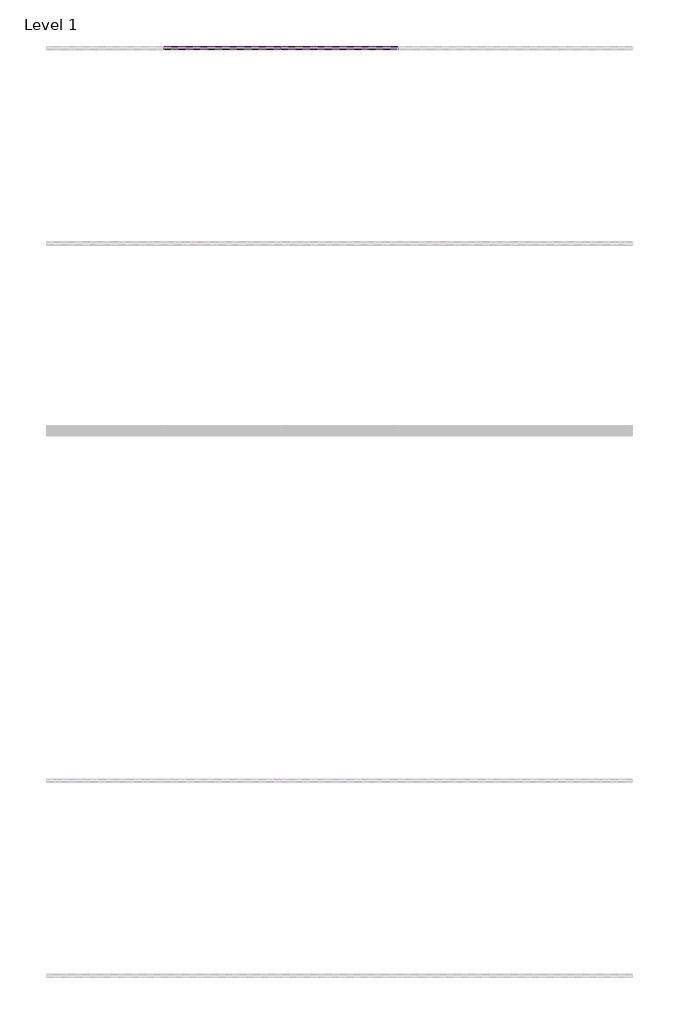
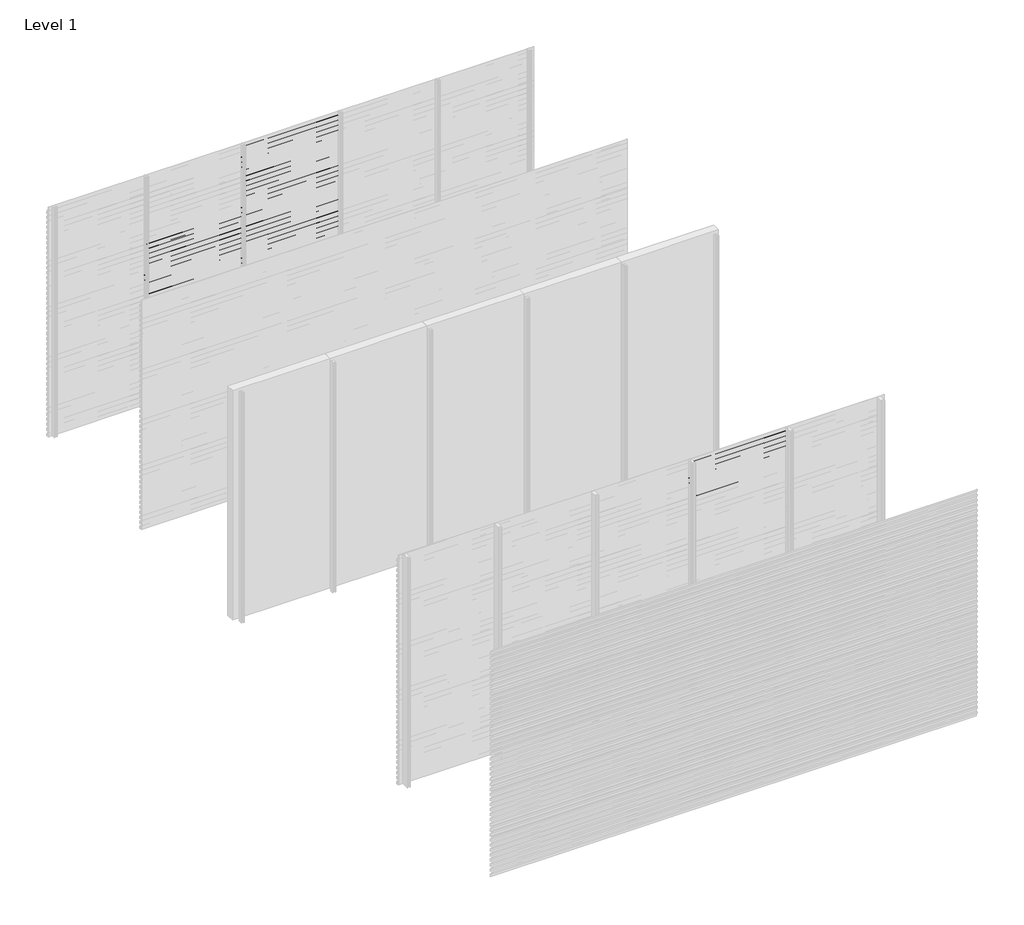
# One storey, part 109 of 540: 85 proxies.
"""IFC4 building model written with IfcOpenShell, lengths in millimetres."""

import ifcopenshell
import ifcopenshell.guid

model = None  # the IFC model being written
_history = None  # IfcOwnerHistory: only IFC2X3 demands one
_inside = {}  # id of a spatial element -> (the spatial element, [elements in it])
_under = {}  # id of a project, library or spatial element -> (it, [spatial elements below it])
_declared = {}  # id of a project -> (the project, [libraries it declares])
_typed = {}  # id of a type object -> (the type object, [elements of that type])
_made_of = {}  # id of a material, layer set ... -> (it, [elements and type objects made of it])


def new_model(schema):
    """Start an empty IFC model of exactly this schema.

    Asked for "IFC4X3", IfcOpenShell would pick the latest addendum, in which some entities
    have other attributes; the version numbers below select the first issue.
    IFC2X3 requires an IfcOwnerHistory on every rooted entity: one is made here for all.
    """
    global model, _history
    if schema == "IFC4X3":
        model = ifcopenshell.file(schema_version=(4, 3, 0, 0))
    else:
        model = ifcopenshell.file(schema=schema)
    _inside.clear()
    _under.clear()
    _declared.clear()
    _typed.clear()
    _made_of.clear()
    _history = None
    if model.schema == "IFC2X3":
        org = make("IfcOrganization", Name="unknown")
        user = make(
            "IfcPersonAndOrganization",
            ThePerson=make("IfcPerson", FamilyName="unknown"),
            TheOrganization=org,
        )
        app = make(
            "IfcApplication",
            ApplicationDeveloper=org,
            Version="unknown",
            ApplicationFullName="unknown",
            ApplicationIdentifier="unknown",
        )
        _history = make(
            "IfcOwnerHistory",
            OwningUser=user,
            OwningApplication=app,
            ChangeAction="ADDED",
            CreationDate=0,
        )
    return model


def make(cls, **values):
    """One entity of the class cls with the attributes given. An attribute that is None is left unset."""
    return model.create_entity(
        cls, **{name: value for name, value in values.items() if value is not None}
    )


def rooted(cls, **values):
    """An entity with a GlobalId (a new one), such as an element, a storey or a relation."""
    return make(cls, GlobalId=ifcopenshell.guid.new(), OwnerHistory=_history, **values)


def si_unit(unit_type, name, prefix=None):
    """IfcSIUnit, for example si_unit("LENGTHUNIT", "METRE", prefix="MILLI")."""
    return make("IfcSIUnit", UnitType=unit_type, Prefix=prefix, Name=name)


def assignment(units):
    """IfcUnitAssignment: the units of a project."""
    return None if units is None else make("IfcUnitAssignment", Units=units)


def point(xyz):
    """IfcCartesianPoint."""
    return None if xyz is None else make("IfcCartesianPoint", Coordinates=xyz)


def direction(xyz):
    """IfcDirection."""
    return None if xyz is None else make("IfcDirection", DirectionRatios=xyz)


def frame(location, z_axis=None, x_axis=None):
    """IfcAxis2Placement3D, a coordinate frame: its origin and axes. An axis left out is left unset."""
    return make(
        "IfcAxis2Placement3D",
        Location=point(location),
        Axis=direction(z_axis),
        RefDirection=direction(x_axis),
    )


def origin():
    """The frame at (0, 0, 0) with its axes left unset."""
    return frame((0.0, 0.0, 0.0))


def place(relative_to, where):
    """IfcLocalPlacement: puts the frame where relative to a parent placement (None: the world)."""
    return make(
        "IfcLocalPlacement", PlacementRelTo=relative_to, RelativePlacement=where
    )


def context(
    kind, dimensions, precision=None, world=None, true_north=None, identifier=None
):
    """IfcGeometricRepresentationContext, for example the 3D "Model" context."""
    return make(
        "IfcGeometricRepresentationContext",
        ContextIdentifier=identifier,
        ContextType=kind,
        CoordinateSpaceDimension=dimensions,
        Precision=precision,
        WorldCoordinateSystem=world,
        TrueNorth=true_north,
    )


def project(units=None, contexts=None):
    """IfcProject with its units and contexts."""
    return rooted(
        "IfcProject",
        Name="project",
        RepresentationContexts=contexts,
        UnitsInContext=assignment(units),
    )


def spatial(cls, under=None, at=None, **own):
    """A site, building, storey or space (cls), placed at a placement, below another one or the project."""
    s = rooted(cls, ObjectPlacement=at, **own)
    if under is not None:
        _under.setdefault(under.id(), (under, []))[1].append(s)
    return s


def polyline(points):
    """IfcPolyline through the points."""
    return make("IfcPolyline", Points=[point(p) for p in points])


def outline(outer, holes=None, kind="AREA"):
    """IfcArbitraryClosedProfileDef: a profile drawn as a closed curve; with holes, ...WithVoids."""
    if holes is None:
        return make("IfcArbitraryClosedProfileDef", ProfileType=kind, OuterCurve=outer)
    return make(
        "IfcArbitraryProfileDefWithVoids",
        ProfileType=kind,
        OuterCurve=outer,
        InnerCurves=holes,
    )


def extrude(swept, where, along, depth):
    """IfcExtrudedAreaSolid: the profile swept, set in the frame where, extruded along a direction by depth."""
    return make(
        "IfcExtrudedAreaSolid",
        SweptArea=swept,
        Position=where,
        ExtrudedDirection=direction(along),
        Depth=depth,
    )


def shape(context_of_items, identifier, shape_type, items):
    """IfcShapeRepresentation: the items that make up one representation, for example the "Body"."""
    return make(
        "IfcShapeRepresentation",
        ContextOfItems=context_of_items,
        RepresentationIdentifier=identifier,
        RepresentationType=shape_type,
        Items=items,
    )


def made_of(thing, what):
    """Note that an element or type object is made of a material, layer set ...; save() writes the relation."""
    if what is not None:
        _made_of.setdefault(what.id(), (what, []))[1].append(thing)
    return thing


def element(
    cls,
    number,
    at=None,
    inside=None,
    cuts=None,
    type_object=None,
    material=None,
    context=None,
    identifier="Body",
    shape_type=None,
    held_by="IfcProductDefinitionShape",
    body=None,
    shapes=None,
    **own,
):
    """One element of the class cls, such as IfcWall. Its Tag is "e" and its number.

    at: its placement. inside: the storey or other place that contains it. cuts: it is an
    opening in that element (IfcRelVoidsElement). A single representation is given by context,
    identifier, shape_type and body (its items); several are given by shapes. held_by: the class
    of the entity that holds the representations. save() writes the other relations.
    """
    e = rooted(cls, Tag="e%d" % number, ObjectPlacement=at, **own)
    if body is not None:
        shapes = [shape(context, identifier, shape_type, body)]
    if shapes is not None:
        e.Representation = make(held_by, Representations=shapes)
    if inside is not None:
        _inside.setdefault(inside.id(), (inside, []))[1].append(e)
    if cuts is not None:
        rooted(
            "IfcRelVoidsElement", RelatingBuildingElement=cuts, RelatedOpeningElement=e
        )
    if type_object is not None:
        _typed.setdefault(type_object.id(), (type_object, []))[1].append(e)
    return made_of(e, material)


def aggregate(whole, parts):
    """IfcRelAggregates: a whole, such as a stair, and the parts it consists of."""
    return rooted("IfcRelAggregates", RelatingObject=whole, RelatedObjects=parts)


def save(model, path):
    """Write the relations noted so far, then the file.

    IfcRelAggregates (storeys below a building ...), IfcRelContainedInSpatialStructure (elements
    in a storey), IfcRelDefinesByType, IfcRelAssociatesMaterial and IfcRelDeclares: one each for
    every whole, place, type object, material and project.
    """
    for whole, parts in _under.values():
        aggregate(whole, parts)
    for where, things in _inside.values():
        rooted(
            "IfcRelContainedInSpatialStructure",
            RelatedElements=things,
            RelatingStructure=where,
        )
    for kind, things in _typed.values():
        rooted("IfcRelDefinesByType", RelatedObjects=things, RelatingType=kind)
    for what, things in _made_of.values():
        rooted("IfcRelAssociatesMaterial", RelatedObjects=things, RelatingMaterial=what)
    for by, libraries in _declared.values():
        rooted("IfcRelDeclares", RelatingContext=by, RelatedDefinitions=libraries)
    model.write(path)


model = new_model("IFC4")

# Units and contexts
model_context = context("Model", 3, world=origin())
ifc_project = project(units=[si_unit("LENGTHUNIT", "METRE", prefix="MILLI")], contexts=[model_context])

# Site, building, storey
site = spatial("IfcSite", under=ifc_project)
building = spatial("IfcBuilding", under=site)
storey = spatial("IfcBuildingStorey", under=building, Name="Level 1", Elevation=0.0)

# Proxies
placement = place(None, origin())
element("IfcBuildingElementProxy", 1, Name="Wall Sweeps", at=placement, inside=storey, context=model_context, shape_type="SweptSolid", body=[
    extrude(outline(polyline([(59014.0540136, 2072.0), (59014.0540136, 2039.0), (59012.8040136, 2039.7216933), (59012.8040136, 2071.2872415), (58983.0540136, 2092.0588647), (58983.0540136, 2112.0), (58984.3040136, 2112.0), (58984.3040136, 2092.7716232), (59014.0540136, 2072.0)])), frame((46166.6208097, 0.0, 0.0), z_axis=(1.0, 0.0, 0.0), x_axis=(0.0, 1.0, 0.0)), (0.0, 0.0, 1.0), 1200.0),
])
element("IfcBuildingElementProxy", 2, Name="Wall Sweeps", at=placement, inside=storey, context=model_context, shape_type="SweptSolid", body=[
    extrude(outline(polyline([(59014.0540136, 2006.0), (59014.0540136, 1973.0), (59012.8040136, 1973.7216933), (59012.8040136, 2005.2872415), (58983.0540136, 2026.0588647), (58983.0540136, 2046.0), (58984.3040136, 2046.0), (58984.3040136, 2026.7716232), (59014.0540136, 2006.0)])), frame((46166.6208097, 0.0, 0.0), z_axis=(1.0, 0.0, 0.0), x_axis=(0.0, 1.0, 0.0)), (0.0, 0.0, 1.0), 1200.0),
])
element("IfcBuildingElementProxy", 3, Name="Wall Sweeps", at=placement, inside=storey, context=model_context, shape_type="SweptSolid", body=[
    extrude(outline(polyline([(59014.0540136, 1940.0), (59014.0540136, 1907.0), (59012.8040136, 1907.7216933), (59012.8040136, 1939.2872415), (58983.0540136, 1960.0588647), (58983.0540136, 1980.0), (58984.3040136, 1980.0), (58984.3040136, 1960.7716232), (59014.0540136, 1940.0)])), frame((46166.6208097, 0.0, 0.0), z_axis=(1.0, 0.0, 0.0), x_axis=(0.0, 1.0, 0.0)), (0.0, 0.0, 1.0), 1200.0),
])
element("IfcBuildingElementProxy", 4, Name="Wall Sweeps", at=placement, inside=storey, context=model_context, shape_type="SweptSolid", body=[
    extrude(outline(polyline([(59014.0540136, 1874.0), (59014.0540136, 1841.0), (59012.8040136, 1841.7216933), (59012.8040136, 1873.2872415), (58983.0540136, 1894.0588647), (58983.0540136, 1914.0), (58984.3040136, 1914.0), (58984.3040136, 1894.7716232), (59014.0540136, 1874.0)])), frame((46166.6208097, 0.0, 0.0), z_axis=(1.0, 0.0, 0.0), x_axis=(0.0, 1.0, 0.0)), (0.0, 0.0, 1.0), 1200.0),
])
element("IfcBuildingElementProxy", 5, Name="Wall Sweeps", at=placement, inside=storey, context=model_context, shape_type="SweptSolid", body=[
    extrude(outline(polyline([(59014.0540136, 1808.0), (59014.0540136, 1775.0), (59012.8040136, 1775.7216933), (59012.8040136, 1807.2872415), (58983.0540136, 1828.0588647), (58983.0540136, 1848.0), (58984.3040136, 1848.0), (58984.3040136, 1828.7716232), (59014.0540136, 1808.0)])), frame((46166.6208097, 0.0, 0.0), z_axis=(1.0, 0.0, 0.0), x_axis=(0.0, 1.0, 0.0)), (0.0, 0.0, 1.0), 1200.0),
])
element("IfcBuildingElementProxy", 6, Name="Wall Sweeps", at=placement, inside=storey, context=model_context, shape_type="SweptSolid", body=[
    extrude(outline(polyline([(59014.0540136, 1742.0), (59014.0540136, 1709.0), (59012.8040136, 1709.7216933), (59012.8040136, 1741.2872415), (58983.0540136, 1762.0588647), (58983.0540136, 1782.0), (58984.3040136, 1782.0), (58984.3040136, 1762.7716232), (59014.0540136, 1742.0)])), frame((46166.6208097, 0.0, 0.0), z_axis=(1.0, 0.0, 0.0), x_axis=(0.0, 1.0, 0.0)), (0.0, 0.0, 1.0), 1200.0),
])
element("IfcBuildingElementProxy", 7, Name="Wall Sweeps", at=placement, inside=storey, context=model_context, shape_type="SweptSolid", body=[
    extrude(outline(polyline([(59014.0540136, 1676.0), (59014.0540136, 1643.0), (59012.8040136, 1643.7216933), (59012.8040136, 1675.2872415), (58983.0540136, 1696.0588647), (58983.0540136, 1716.0), (58984.3040136, 1716.0), (58984.3040136, 1696.7716232), (59014.0540136, 1676.0)])), frame((46166.6208097, 0.0, 0.0), z_axis=(1.0, 0.0, 0.0), x_axis=(0.0, 1.0, 0.0)), (0.0, 0.0, 1.0), 1200.0),
])
element("IfcBuildingElementProxy", 8, Name="Wall Sweeps", at=placement, inside=storey, context=model_context, shape_type="SweptSolid", body=[
    extrude(outline(polyline([(59014.0540136, 1610.0), (59014.0540136, 1577.0), (59012.8040136, 1577.7216933), (59012.8040136, 1609.2872415), (58983.0540136, 1630.0588647), (58983.0540136, 1650.0), (58984.3040136, 1650.0), (58984.3040136, 1630.7716232), (59014.0540136, 1610.0)])), frame((46166.6208097, 0.0, 0.0), z_axis=(1.0, 0.0, 0.0), x_axis=(0.0, 1.0, 0.0)), (0.0, 0.0, 1.0), 1200.0),
])
element("IfcBuildingElementProxy", 9, Name="Wall Sweeps", at=placement, inside=storey, context=model_context, shape_type="SweptSolid", body=[
    extrude(outline(polyline([(59014.0540136, 1544.0), (59014.0540136, 1511.0), (59012.8040136, 1511.7216933), (59012.8040136, 1543.2872415), (58983.0540136, 1564.0588647), (58983.0540136, 1584.0), (58984.3040136, 1584.0), (58984.3040136, 1564.7716232), (59014.0540136, 1544.0)])), frame((46166.6208097, 0.0, 0.0), z_axis=(1.0, 0.0, 0.0), x_axis=(0.0, 1.0, 0.0)), (0.0, 0.0, 1.0), 1200.0),
])
element("IfcBuildingElementProxy", 10, Name="Wall Sweeps", at=placement, inside=storey, context=model_context, shape_type="SweptSolid", body=[
    extrude(outline(polyline([(59014.0540136, 1478.0), (59014.0540136, 1445.0), (59012.8040136, 1445.7216933), (59012.8040136, 1477.2872415), (58983.0540136, 1498.0588647), (58983.0540136, 1518.0), (58984.3040136, 1518.0), (58984.3040136, 1498.7716232), (59014.0540136, 1478.0)])), frame((46166.6208097, 0.0, 0.0), z_axis=(1.0, 0.0, 0.0), x_axis=(0.0, 1.0, 0.0)), (0.0, 0.0, 1.0), 1200.0),
])
element("IfcBuildingElementProxy", 11, Name="Wall Sweeps", at=placement, inside=storey, context=model_context, shape_type="SweptSolid", body=[
    extrude(outline(polyline([(59014.0540136, 1412.0), (59014.0540136, 1379.0), (59012.8040136, 1379.7216933), (59012.8040136, 1411.2872415), (58983.0540136, 1432.0588647), (58983.0540136, 1452.0), (58984.3040136, 1452.0), (58984.3040136, 1432.7716232), (59014.0540136, 1412.0)])), frame((46166.6208097, 0.0, 0.0), z_axis=(1.0, 0.0, 0.0), x_axis=(0.0, 1.0, 0.0)), (0.0, 0.0, 1.0), 1200.0),
])
element("IfcBuildingElementProxy", 12, Name="Wall Sweeps", at=placement, inside=storey, context=model_context, shape_type="SweptSolid", body=[
    extrude(outline(polyline([(59014.0540136, 1346.0), (59014.0540136, 1313.0), (59012.8040136, 1313.7216933), (59012.8040136, 1345.2872415), (58983.0540136, 1366.0588647), (58983.0540136, 1386.0), (58984.3040136, 1386.0), (58984.3040136, 1366.7716232), (59014.0540136, 1346.0)])), frame((46166.6208097, 0.0, 0.0), z_axis=(1.0, 0.0, 0.0), x_axis=(0.0, 1.0, 0.0)), (0.0, 0.0, 1.0), 1200.0),
])
element("IfcBuildingElementProxy", 13, Name="Wall Sweeps", at=placement, inside=storey, context=model_context, shape_type="SweptSolid", body=[
    extrude(outline(polyline([(59014.0540136, 1280.0), (59014.0540136, 1247.0), (59012.8040136, 1247.7216933), (59012.8040136, 1279.2872415), (58983.0540136, 1300.0588647), (58983.0540136, 1320.0), (58984.3040136, 1320.0), (58984.3040136, 1300.7716232), (59014.0540136, 1280.0)])), frame((46166.6208097, 0.0, 0.0), z_axis=(1.0, 0.0, 0.0), x_axis=(0.0, 1.0, 0.0)), (0.0, 0.0, 1.0), 1200.0),
])
element("IfcBuildingElementProxy", 14, Name="Wall Sweeps", at=placement, inside=storey, context=model_context, shape_type="SweptSolid", body=[
    extrude(outline(polyline([(59014.0540136, 1214.0), (59014.0540136, 1181.0), (59012.8040136, 1181.7216933), (59012.8040136, 1213.2872415), (58983.0540136, 1234.0588647), (58983.0540136, 1254.0), (58984.3040136, 1254.0), (58984.3040136, 1234.7716232), (59014.0540136, 1214.0)])), frame((46166.6208097, 0.0, 0.0), z_axis=(1.0, 0.0, 0.0), x_axis=(0.0, 1.0, 0.0)), (0.0, 0.0, 1.0), 1200.0),
])
element("IfcBuildingElementProxy", 15, Name="Wall Sweeps", at=placement, inside=storey, context=model_context, shape_type="SweptSolid", body=[
    extrude(outline(polyline([(59014.0540136, 1148.0), (59014.0540136, 1115.0), (59012.8040136, 1115.7216933), (59012.8040136, 1147.2872415), (58983.0540136, 1168.0588647), (58983.0540136, 1188.0), (58984.3040136, 1188.0), (58984.3040136, 1168.7716232), (59014.0540136, 1148.0)])), frame((46166.6208097, 0.0, 0.0), z_axis=(1.0, 0.0, 0.0), x_axis=(0.0, 1.0, 0.0)), (0.0, 0.0, 1.0), 1200.0),
])
element("IfcBuildingElementProxy", 16, Name="Wall Sweeps", at=placement, inside=storey, context=model_context, shape_type="SweptSolid", body=[
    extrude(outline(polyline([(59014.0540136, 1082.0), (59014.0540136, 1049.0), (59012.8040136, 1049.7216933), (59012.8040136, 1081.2872415), (58983.0540136, 1102.0588647), (58983.0540136, 1122.0), (58984.3040136, 1122.0), (58984.3040136, 1102.7716232), (59014.0540136, 1082.0)])), frame((46166.6208097, 0.0, 0.0), z_axis=(1.0, 0.0, 0.0), x_axis=(0.0, 1.0, 0.0)), (0.0, 0.0, 1.0), 1200.0),
])
element("IfcBuildingElementProxy", 17, Name="Wall Sweeps", at=placement, inside=storey, context=model_context, shape_type="SweptSolid", body=[
    extrude(outline(polyline([(59014.0540136, 1016.0), (59014.0540136, 983.0), (59012.8040136, 983.7216933), (59012.8040136, 1015.2872415), (58983.0540136, 1036.0588647), (58983.0540136, 1056.0), (58984.3040136, 1056.0), (58984.3040136, 1036.7716232), (59014.0540136, 1016.0)])), frame((46166.6208097, 0.0, 0.0), z_axis=(1.0, 0.0, 0.0), x_axis=(0.0, 1.0, 0.0)), (0.0, 0.0, 1.0), 1200.0),
])
element("IfcBuildingElementProxy", 18, Name="Wall Sweeps", at=placement, inside=storey, context=model_context, shape_type="SweptSolid", body=[
    extrude(outline(polyline([(59014.0540136, 950.0), (59014.0540136, 917.0), (59012.8040136, 917.7216933), (59012.8040136, 949.2872415), (58983.0540136, 970.0588647), (58983.0540136, 990.0), (58984.3040136, 990.0), (58984.3040136, 970.7716232), (59014.0540136, 950.0)])), frame((46166.6208097, 0.0, 0.0), z_axis=(1.0, 0.0, 0.0), x_axis=(0.0, 1.0, 0.0)), (0.0, 0.0, 1.0), 1200.0),
])
element("IfcBuildingElementProxy", 19, Name="Wall Sweeps", at=placement, inside=storey, context=model_context, shape_type="SweptSolid", body=[
    extrude(outline(polyline([(59014.0540136, 884.0), (59014.0540136, 851.0), (59012.8040136, 851.7216933), (59012.8040136, 883.2872415), (58983.0540136, 904.0588647), (58983.0540136, 924.0), (58984.3040136, 924.0), (58984.3040136, 904.7716232), (59014.0540136, 884.0)])), frame((46166.6208097, 0.0, 0.0), z_axis=(1.0, 0.0, 0.0), x_axis=(0.0, 1.0, 0.0)), (0.0, 0.0, 1.0), 1200.0),
])
element("IfcBuildingElementProxy", 20, Name="Wall Sweeps", at=placement, inside=storey, context=model_context, shape_type="SweptSolid", body=[
    extrude(outline(polyline([(59014.0540136, 818.0), (59014.0540136, 785.0), (59012.8040136, 785.7216933), (59012.8040136, 817.2872415), (58983.0540136, 838.0588647), (58983.0540136, 858.0), (58984.3040136, 858.0), (58984.3040136, 838.7716232), (59014.0540136, 818.0)])), frame((46166.6208097, 0.0, 0.0), z_axis=(1.0, 0.0, 0.0), x_axis=(0.0, 1.0, 0.0)), (0.0, 0.0, 1.0), 1200.0),
])
element("IfcBuildingElementProxy", 21, Name="Wall Sweeps", at=placement, inside=storey, context=model_context, shape_type="SweptSolid", body=[
    extrude(outline(polyline([(59014.0540136, 752.0), (59014.0540136, 719.0), (59012.8040136, 719.7216933), (59012.8040136, 751.2872415), (58983.0540136, 772.0588647), (58983.0540136, 792.0), (58984.3040136, 792.0), (58984.3040136, 772.7716232), (59014.0540136, 752.0)])), frame((46166.6208097, 0.0, 0.0), z_axis=(1.0, 0.0, 0.0), x_axis=(0.0, 1.0, 0.0)), (0.0, 0.0, 1.0), 1200.0),
])
element("IfcBuildingElementProxy", 22, Name="Wall Sweeps", at=placement, inside=storey, context=model_context, shape_type="SweptSolid", body=[
    extrude(outline(polyline([(59014.0540136, 686.0), (59014.0540136, 653.0), (59012.8040136, 653.7216933), (59012.8040136, 685.2872415), (58983.0540136, 706.0588647), (58983.0540136, 726.0), (58984.3040136, 726.0), (58984.3040136, 706.7716232), (59014.0540136, 686.0)])), frame((46166.6208097, 0.0, 0.0), z_axis=(1.0, 0.0, 0.0), x_axis=(0.0, 1.0, 0.0)), (0.0, 0.0, 1.0), 1200.0),
])
element("IfcBuildingElementProxy", 23, Name="Wall Sweeps", at=placement, inside=storey, context=model_context, shape_type="SweptSolid", body=[
    extrude(outline(polyline([(59014.0540136, 620.0), (59014.0540136, 587.0), (59012.8040136, 587.7216933), (59012.8040136, 619.2872415), (58983.0540136, 640.0588647), (58983.0540136, 660.0), (58984.3040136, 660.0), (58984.3040136, 640.7716232), (59014.0540136, 620.0)])), frame((46166.6208097, 0.0, 0.0), z_axis=(1.0, 0.0, 0.0), x_axis=(0.0, 1.0, 0.0)), (0.0, 0.0, 1.0), 1200.0),
])
element("IfcBuildingElementProxy", 24, Name="Wall Sweeps", at=placement, inside=storey, context=model_context, shape_type="SweptSolid", body=[
    extrude(outline(polyline([(59014.0540136, 554.0), (59014.0540136, 521.0), (59012.8040136, 521.7216933), (59012.8040136, 553.2872415), (58983.0540136, 574.0588647), (58983.0540136, 594.0), (58984.3040136, 594.0), (58984.3040136, 574.7716232), (59014.0540136, 554.0)])), frame((46166.6208097, 0.0, 0.0), z_axis=(1.0, 0.0, 0.0), x_axis=(0.0, 1.0, 0.0)), (0.0, 0.0, 1.0), 1200.0),
])
element("IfcBuildingElementProxy", 25, Name="Wall Sweeps", at=placement, inside=storey, context=model_context, shape_type="SweptSolid", body=[
    extrude(outline(polyline([(59014.0540136, 488.0), (59014.0540136, 455.0), (59012.8040136, 455.7216933), (59012.8040136, 487.2872415), (58983.0540136, 508.0588647), (58983.0540136, 528.0), (58984.3040136, 528.0), (58984.3040136, 508.7716232), (59014.0540136, 488.0)])), frame((46166.6208097, 0.0, 0.0), z_axis=(1.0, 0.0, 0.0), x_axis=(0.0, 1.0, 0.0)), (0.0, 0.0, 1.0), 1200.0),
])
element("IfcBuildingElementProxy", 26, Name="Wall Sweeps", at=placement, inside=storey, context=model_context, shape_type="SweptSolid", body=[
    extrude(outline(polyline([(59014.0540136, 422.0), (59014.0540136, 389.0), (59012.8040136, 389.7216933), (59012.8040136, 421.2872415), (58983.0540136, 442.0588647), (58983.0540136, 462.0), (58984.3040136, 462.0), (58984.3040136, 442.7716232), (59014.0540136, 422.0)])), frame((46166.6208097, 0.0, 0.0), z_axis=(1.0, 0.0, 0.0), x_axis=(0.0, 1.0, 0.0)), (0.0, 0.0, 1.0), 1200.0),
])
element("IfcBuildingElementProxy", 27, Name="Wall Sweeps", at=placement, inside=storey, context=model_context, shape_type="SweptSolid", body=[
    extrude(outline(polyline([(59014.0540136, 356.0), (59014.0540136, 323.0), (59012.8040136, 323.7216933), (59012.8040136, 355.2872415), (58983.0540136, 376.0588647), (58983.0540136, 396.0), (58984.3040136, 396.0), (58984.3040136, 376.7716232), (59014.0540136, 356.0)])), frame((46166.6208097, 0.0, 0.0), z_axis=(1.0, 0.0, 0.0), x_axis=(0.0, 1.0, 0.0)), (0.0, 0.0, 1.0), 1200.0),
])
element("IfcBuildingElementProxy", 28, Name="Wall Sweeps", at=placement, inside=storey, context=model_context, shape_type="SweptSolid", body=[
    extrude(outline(polyline([(59014.0540136, 290.0), (59014.0540136, 257.0), (59012.8040136, 257.7216933), (59012.8040136, 289.2872415), (58983.0540136, 310.0588647), (58983.0540136, 330.0), (58984.3040136, 330.0), (58984.3040136, 310.7716232), (59014.0540136, 290.0)])), frame((46166.6208097, 0.0, 0.0), z_axis=(1.0, 0.0, 0.0), x_axis=(0.0, 1.0, 0.0)), (0.0, 0.0, 1.0), 1200.0),
])
element("IfcBuildingElementProxy", 29, Name="Wall Sweeps", at=placement, inside=storey, context=model_context, shape_type="SweptSolid", body=[
    extrude(outline(polyline([(59014.0540136, 224.0), (59014.0540136, 191.0), (59012.8040136, 191.7216933), (59012.8040136, 223.2872415), (58983.0540136, 244.0588647), (58983.0540136, 264.0), (58984.3040136, 264.0), (58984.3040136, 244.7716232), (59014.0540136, 224.0)])), frame((46166.6208097, 0.0, 0.0), z_axis=(1.0, 0.0, 0.0), x_axis=(0.0, 1.0, 0.0)), (0.0, 0.0, 1.0), 1200.0),
])
element("IfcBuildingElementProxy", 30, Name="Wall Sweeps", at=placement, inside=storey, context=model_context, shape_type="SweptSolid", body=[
    extrude(outline(polyline([(59014.0540136, 158.0), (59014.0540136, 125.0), (59012.8040136, 125.7216933), (59012.8040136, 157.2872415), (58983.0540136, 178.0588647), (58983.0540136, 198.0), (58984.3040136, 198.0), (58984.3040136, 178.7716232), (59014.0540136, 158.0)])), frame((46166.6208097, 0.0, 0.0), z_axis=(1.0, 0.0, 0.0), x_axis=(0.0, 1.0, 0.0)), (0.0, 0.0, 1.0), 1200.0),
])
element("IfcBuildingElementProxy", 31, Name="Wall Sweeps", at=placement, inside=storey, context=model_context, shape_type="SweptSolid", body=[
    extrude(outline(polyline([(59014.0540136, 92.0), (59014.0540136, 59.0), (59012.8040136, 59.7216933), (59012.8040136, 91.2872415), (58983.0540136, 112.0588647), (58983.0540136, 132.0), (58984.3040136, 132.0), (58984.3040136, 112.7716232), (59014.0540136, 92.0)])), frame((46166.6208097, 0.0, 0.0), z_axis=(1.0, 0.0, 0.0), x_axis=(0.0, 1.0, 0.0)), (0.0, 0.0, 1.0), 1200.0),
])
element("IfcBuildingElementProxy", 32, Name="Wall Sweeps", at=placement, inside=storey, context=model_context, shape_type="SweptSolid", body=[
    extrude(outline(polyline([(59014.0540136, 26.0), (59014.0540136, -7.0), (59012.8040136, -6.2783067), (59012.8040136, 25.2872415), (58983.0540136, 46.0588647), (58983.0540136, 66.0), (58984.3040136, 66.0), (58984.3040136, 46.7716232), (59014.0540136, 26.0)])), frame((46166.6208097, 0.0, 0.0), z_axis=(1.0, 0.0, 0.0), x_axis=(0.0, 1.0, 0.0)), (0.0, 0.0, 1.0), 1200.0),
])
element("IfcBuildingElementProxy", 33, Name="Wall Sweeps", at=placement, inside=storey, context=model_context, shape_type="SweptSolid", body=[
    extrude(outline(polyline([(59014.0540136, 2930.0), (59014.0540136, 2897.0), (59012.8040136, 2897.7216933), (59012.8040136, 2929.2872415), (58983.0540136, 2950.0588647), (58983.0540136, 2970.0), (58984.3040136, 2970.0), (58984.3040136, 2950.7716232), (59014.0540136, 2930.0)])), frame((47366.6208097, 0.0, 0.0), z_axis=(1.0, 0.0, 0.0), x_axis=(0.0, 1.0, 0.0)), (0.0, 0.0, 1.0), 1200.0),
])
element("IfcBuildingElementProxy", 34, Name="Wall Sweeps", at=placement, inside=storey, context=model_context, shape_type="SweptSolid", body=[
    extrude(outline(polyline([(59014.0540136, 2864.0), (59014.0540136, 2831.0), (59012.8040136, 2831.7216933), (59012.8040136, 2863.2872415), (58983.0540136, 2884.0588647), (58983.0540136, 2904.0), (58984.3040136, 2904.0), (58984.3040136, 2884.7716232), (59014.0540136, 2864.0)])), frame((47366.6208097, 0.0, 0.0), z_axis=(1.0, 0.0, 0.0), x_axis=(0.0, 1.0, 0.0)), (0.0, 0.0, 1.0), 1200.0),
])
element("IfcBuildingElementProxy", 35, Name="Wall Sweeps", at=placement, inside=storey, context=model_context, shape_type="SweptSolid", body=[
    extrude(outline(polyline([(59014.0540136, 2798.0), (59014.0540136, 2765.0), (59012.8040136, 2765.7216933), (59012.8040136, 2797.2872415), (58983.0540136, 2818.0588647), (58983.0540136, 2838.0), (58984.3040136, 2838.0), (58984.3040136, 2818.7716232), (59014.0540136, 2798.0)])), frame((47366.6208097, 0.0, 0.0), z_axis=(1.0, 0.0, 0.0), x_axis=(0.0, 1.0, 0.0)), (0.0, 0.0, 1.0), 1200.0),
])
element("IfcBuildingElementProxy", 36, Name="Wall Sweeps", at=placement, inside=storey, context=model_context, shape_type="SweptSolid", body=[
    extrude(outline(polyline([(59014.0540136, 2732.0), (59014.0540136, 2699.0), (59012.8040136, 2699.7216933), (59012.8040136, 2731.2872415), (58983.0540136, 2752.0588647), (58983.0540136, 2772.0), (58984.3040136, 2772.0), (58984.3040136, 2752.7716232), (59014.0540136, 2732.0)])), frame((47366.6208097, 0.0, 0.0), z_axis=(1.0, 0.0, 0.0), x_axis=(0.0, 1.0, 0.0)), (0.0, 0.0, 1.0), 1200.0),
])
element("IfcBuildingElementProxy", 37, Name="Wall Sweeps", at=placement, inside=storey, context=model_context, shape_type="SweptSolid", body=[
    extrude(outline(polyline([(59014.0540136, 2666.0), (59014.0540136, 2633.0), (59012.8040136, 2633.7216933), (59012.8040136, 2665.2872415), (58983.0540136, 2686.0588647), (58983.0540136, 2706.0), (58984.3040136, 2706.0), (58984.3040136, 2686.7716232), (59014.0540136, 2666.0)])), frame((47366.6208097, 0.0, 0.0), z_axis=(1.0, 0.0, 0.0), x_axis=(0.0, 1.0, 0.0)), (0.0, 0.0, 1.0), 1200.0),
])
element("IfcBuildingElementProxy", 38, Name="Wall Sweeps", at=placement, inside=storey, context=model_context, shape_type="SweptSolid", body=[
    extrude(outline(polyline([(59014.0540136, 2600.0), (59014.0540136, 2567.0), (59012.8040136, 2567.7216933), (59012.8040136, 2599.2872415), (58983.0540136, 2620.0588647), (58983.0540136, 2640.0), (58984.3040136, 2640.0), (58984.3040136, 2620.7716232), (59014.0540136, 2600.0)])), frame((47366.6208097, 0.0, 0.0), z_axis=(1.0, 0.0, 0.0), x_axis=(0.0, 1.0, 0.0)), (0.0, 0.0, 1.0), 1200.0),
])
element("IfcBuildingElementProxy", 39, Name="Wall Sweeps", at=placement, inside=storey, context=model_context, shape_type="SweptSolid", body=[
    extrude(outline(polyline([(59014.0540136, 2534.0), (59014.0540136, 2501.0), (59012.8040136, 2501.7216933), (59012.8040136, 2533.2872415), (58983.0540136, 2554.0588647), (58983.0540136, 2574.0), (58984.3040136, 2574.0), (58984.3040136, 2554.7716232), (59014.0540136, 2534.0)])), frame((47366.6208097, 0.0, 0.0), z_axis=(1.0, 0.0, 0.0), x_axis=(0.0, 1.0, 0.0)), (0.0, 0.0, 1.0), 1200.0),
])
element("IfcBuildingElementProxy", 40, Name="Wall Sweeps", at=placement, inside=storey, context=model_context, shape_type="SweptSolid", body=[
    extrude(outline(polyline([(59014.0540136, 2468.0), (59014.0540136, 2435.0), (59012.8040136, 2435.7216933), (59012.8040136, 2467.2872415), (58983.0540136, 2488.0588647), (58983.0540136, 2508.0), (58984.3040136, 2508.0), (58984.3040136, 2488.7716232), (59014.0540136, 2468.0)])), frame((47366.6208097, 0.0, 0.0), z_axis=(1.0, 0.0, 0.0), x_axis=(0.0, 1.0, 0.0)), (0.0, 0.0, 1.0), 1200.0),
])
element("IfcBuildingElementProxy", 41, Name="Wall Sweeps", at=placement, inside=storey, context=model_context, shape_type="SweptSolid", body=[
    extrude(outline(polyline([(59014.0540136, 2402.0), (59014.0540136, 2369.0), (59012.8040136, 2369.7216933), (59012.8040136, 2401.2872415), (58983.0540136, 2422.0588647), (58983.0540136, 2442.0), (58984.3040136, 2442.0), (58984.3040136, 2422.7716232), (59014.0540136, 2402.0)])), frame((47366.6208097, 0.0, 0.0), z_axis=(1.0, 0.0, 0.0), x_axis=(0.0, 1.0, 0.0)), (0.0, 0.0, 1.0), 1200.0),
])
element("IfcBuildingElementProxy", 42, Name="Wall Sweeps", at=placement, inside=storey, context=model_context, shape_type="SweptSolid", body=[
    extrude(outline(polyline([(59014.0540136, 2336.0), (59014.0540136, 2303.0), (59012.8040136, 2303.7216933), (59012.8040136, 2335.2872415), (58983.0540136, 2356.0588647), (58983.0540136, 2376.0), (58984.3040136, 2376.0), (58984.3040136, 2356.7716232), (59014.0540136, 2336.0)])), frame((47366.6208097, 0.0, 0.0), z_axis=(1.0, 0.0, 0.0), x_axis=(0.0, 1.0, 0.0)), (0.0, 0.0, 1.0), 1200.0),
])
element("IfcBuildingElementProxy", 43, Name="Wall Sweeps", at=placement, inside=storey, context=model_context, shape_type="SweptSolid", body=[
    extrude(outline(polyline([(59014.0540136, 2270.0), (59014.0540136, 2237.0), (59012.8040136, 2237.7216933), (59012.8040136, 2269.2872415), (58983.0540136, 2290.0588647), (58983.0540136, 2310.0), (58984.3040136, 2310.0), (58984.3040136, 2290.7716232), (59014.0540136, 2270.0)])), frame((47366.6208097, 0.0, 0.0), z_axis=(1.0, 0.0, 0.0), x_axis=(0.0, 1.0, 0.0)), (0.0, 0.0, 1.0), 1200.0),
])
element("IfcBuildingElementProxy", 44, Name="Wall Sweeps", at=placement, inside=storey, context=model_context, shape_type="SweptSolid", body=[
    extrude(outline(polyline([(59014.0540136, 2204.0), (59014.0540136, 2171.0), (59012.8040136, 2171.7216933), (59012.8040136, 2203.2872415), (58983.0540136, 2224.0588647), (58983.0540136, 2244.0), (58984.3040136, 2244.0), (58984.3040136, 2224.7716232), (59014.0540136, 2204.0)])), frame((47366.6208097, 0.0, 0.0), z_axis=(1.0, 0.0, 0.0), x_axis=(0.0, 1.0, 0.0)), (0.0, 0.0, 1.0), 1200.0),
])
element("IfcBuildingElementProxy", 45, Name="Wall Sweeps", at=placement, inside=storey, context=model_context, shape_type="SweptSolid", body=[
    extrude(outline(polyline([(59014.0540136, 2138.0), (59014.0540136, 2105.0), (59012.8040136, 2105.7216933), (59012.8040136, 2137.2872415), (58983.0540136, 2158.0588647), (58983.0540136, 2178.0), (58984.3040136, 2178.0), (58984.3040136, 2158.7716232), (59014.0540136, 2138.0)])), frame((47366.6208097, 0.0, 0.0), z_axis=(1.0, 0.0, 0.0), x_axis=(0.0, 1.0, 0.0)), (0.0, 0.0, 1.0), 1200.0),
])
element("IfcBuildingElementProxy", 46, Name="Wall Sweeps", at=placement, inside=storey, context=model_context, shape_type="SweptSolid", body=[
    extrude(outline(polyline([(59014.0540136, 2072.0), (59014.0540136, 2039.0), (59012.8040136, 2039.7216933), (59012.8040136, 2071.2872415), (58983.0540136, 2092.0588647), (58983.0540136, 2112.0), (58984.3040136, 2112.0), (58984.3040136, 2092.7716232), (59014.0540136, 2072.0)])), frame((47366.6208097, 0.0, 0.0), z_axis=(1.0, 0.0, 0.0), x_axis=(0.0, 1.0, 0.0)), (0.0, 0.0, 1.0), 1200.0),
])
element("IfcBuildingElementProxy", 47, Name="Wall Sweeps", at=placement, inside=storey, context=model_context, shape_type="SweptSolid", body=[
    extrude(outline(polyline([(59014.0540136, 2006.0), (59014.0540136, 1973.0), (59012.8040136, 1973.7216933), (59012.8040136, 2005.2872415), (58983.0540136, 2026.0588647), (58983.0540136, 2046.0), (58984.3040136, 2046.0), (58984.3040136, 2026.7716232), (59014.0540136, 2006.0)])), frame((47366.6208097, 0.0, 0.0), z_axis=(1.0, 0.0, 0.0), x_axis=(0.0, 1.0, 0.0)), (0.0, 0.0, 1.0), 1200.0),
])
element("IfcBuildingElementProxy", 48, Name="Wall Sweeps", at=placement, inside=storey, context=model_context, shape_type="SweptSolid", body=[
    extrude(outline(polyline([(59014.0540136, 1940.0), (59014.0540136, 1907.0), (59012.8040136, 1907.7216933), (59012.8040136, 1939.2872415), (58983.0540136, 1960.0588647), (58983.0540136, 1980.0), (58984.3040136, 1980.0), (58984.3040136, 1960.7716232), (59014.0540136, 1940.0)])), frame((47366.6208097, 0.0, 0.0), z_axis=(1.0, 0.0, 0.0), x_axis=(0.0, 1.0, 0.0)), (0.0, 0.0, 1.0), 1200.0),
])
element("IfcBuildingElementProxy", 49, Name="Wall Sweeps", at=placement, inside=storey, context=model_context, shape_type="SweptSolid", body=[
    extrude(outline(polyline([(59014.0540136, 1874.0), (59014.0540136, 1841.0), (59012.8040136, 1841.7216933), (59012.8040136, 1873.2872415), (58983.0540136, 1894.0588647), (58983.0540136, 1914.0), (58984.3040136, 1914.0), (58984.3040136, 1894.7716232), (59014.0540136, 1874.0)])), frame((47366.6208097, 0.0, 0.0), z_axis=(1.0, 0.0, 0.0), x_axis=(0.0, 1.0, 0.0)), (0.0, 0.0, 1.0), 1200.0),
])
element("IfcBuildingElementProxy", 50, Name="Wall Sweeps", at=placement, inside=storey, context=model_context, shape_type="SweptSolid", body=[
    extrude(outline(polyline([(59014.0540136, 1808.0), (59014.0540136, 1775.0), (59012.8040136, 1775.7216933), (59012.8040136, 1807.2872415), (58983.0540136, 1828.0588647), (58983.0540136, 1848.0), (58984.3040136, 1848.0), (58984.3040136, 1828.7716232), (59014.0540136, 1808.0)])), frame((47366.6208097, 0.0, 0.0), z_axis=(1.0, 0.0, 0.0), x_axis=(0.0, 1.0, 0.0)), (0.0, 0.0, 1.0), 1200.0),
])
element("IfcBuildingElementProxy", 51, Name="Wall Sweeps", at=placement, inside=storey, context=model_context, shape_type="SweptSolid", body=[
    extrude(outline(polyline([(59014.0540136, 1742.0), (59014.0540136, 1709.0), (59012.8040136, 1709.7216933), (59012.8040136, 1741.2872415), (58983.0540136, 1762.0588647), (58983.0540136, 1782.0), (58984.3040136, 1782.0), (58984.3040136, 1762.7716232), (59014.0540136, 1742.0)])), frame((47366.6208097, 0.0, 0.0), z_axis=(1.0, 0.0, 0.0), x_axis=(0.0, 1.0, 0.0)), (0.0, 0.0, 1.0), 1200.0),
])
element("IfcBuildingElementProxy", 52, Name="Wall Sweeps", at=placement, inside=storey, context=model_context, shape_type="SweptSolid", body=[
    extrude(outline(polyline([(59014.0540136, 1676.0), (59014.0540136, 1643.0), (59012.8040136, 1643.7216933), (59012.8040136, 1675.2872415), (58983.0540136, 1696.0588647), (58983.0540136, 1716.0), (58984.3040136, 1716.0), (58984.3040136, 1696.7716232), (59014.0540136, 1676.0)])), frame((47366.6208097, 0.0, 0.0), z_axis=(1.0, 0.0, 0.0), x_axis=(0.0, 1.0, 0.0)), (0.0, 0.0, 1.0), 1200.0),
])
element("IfcBuildingElementProxy", 53, Name="Wall Sweeps", at=placement, inside=storey, context=model_context, shape_type="SweptSolid", body=[
    extrude(outline(polyline([(59014.0540136, 1610.0), (59014.0540136, 1577.0), (59012.8040136, 1577.7216933), (59012.8040136, 1609.2872415), (58983.0540136, 1630.0588647), (58983.0540136, 1650.0), (58984.3040136, 1650.0), (58984.3040136, 1630.7716232), (59014.0540136, 1610.0)])), frame((47366.6208097, 0.0, 0.0), z_axis=(1.0, 0.0, 0.0), x_axis=(0.0, 1.0, 0.0)), (0.0, 0.0, 1.0), 1200.0),
])
element("IfcBuildingElementProxy", 54, Name="Wall Sweeps", at=placement, inside=storey, context=model_context, shape_type="SweptSolid", body=[
    extrude(outline(polyline([(59014.0540136, 1544.0), (59014.0540136, 1511.0), (59012.8040136, 1511.7216933), (59012.8040136, 1543.2872415), (58983.0540136, 1564.0588647), (58983.0540136, 1584.0), (58984.3040136, 1584.0), (58984.3040136, 1564.7716232), (59014.0540136, 1544.0)])), frame((47366.6208097, 0.0, 0.0), z_axis=(1.0, 0.0, 0.0), x_axis=(0.0, 1.0, 0.0)), (0.0, 0.0, 1.0), 1200.0),
])
element("IfcBuildingElementProxy", 55, Name="Wall Sweeps", at=placement, inside=storey, context=model_context, shape_type="SweptSolid", body=[
    extrude(outline(polyline([(59014.0540136, 1478.0), (59014.0540136, 1445.0), (59012.8040136, 1445.7216933), (59012.8040136, 1477.2872415), (58983.0540136, 1498.0588647), (58983.0540136, 1518.0), (58984.3040136, 1518.0), (58984.3040136, 1498.7716232), (59014.0540136, 1478.0)])), frame((47366.6208097, 0.0, 0.0), z_axis=(1.0, 0.0, 0.0), x_axis=(0.0, 1.0, 0.0)), (0.0, 0.0, 1.0), 1200.0),
])
element("IfcBuildingElementProxy", 56, Name="Wall Sweeps", at=placement, inside=storey, context=model_context, shape_type="SweptSolid", body=[
    extrude(outline(polyline([(59014.0540136, 1412.0), (59014.0540136, 1379.0), (59012.8040136, 1379.7216933), (59012.8040136, 1411.2872415), (58983.0540136, 1432.0588647), (58983.0540136, 1452.0), (58984.3040136, 1452.0), (58984.3040136, 1432.7716232), (59014.0540136, 1412.0)])), frame((47366.6208097, 0.0, 0.0), z_axis=(1.0, 0.0, 0.0), x_axis=(0.0, 1.0, 0.0)), (0.0, 0.0, 1.0), 1200.0),
])
element("IfcBuildingElementProxy", 57, Name="Wall Sweeps", at=placement, inside=storey, context=model_context, shape_type="SweptSolid", body=[
    extrude(outline(polyline([(59014.0540136, 1346.0), (59014.0540136, 1313.0), (59012.8040136, 1313.7216933), (59012.8040136, 1345.2872415), (58983.0540136, 1366.0588647), (58983.0540136, 1386.0), (58984.3040136, 1386.0), (58984.3040136, 1366.7716232), (59014.0540136, 1346.0)])), frame((47366.6208097, 0.0, 0.0), z_axis=(1.0, 0.0, 0.0), x_axis=(0.0, 1.0, 0.0)), (0.0, 0.0, 1.0), 1200.0),
])
element("IfcBuildingElementProxy", 58, Name="Wall Sweeps", at=placement, inside=storey, context=model_context, shape_type="SweptSolid", body=[
    extrude(outline(polyline([(59014.0540136, 1280.0), (59014.0540136, 1247.0), (59012.8040136, 1247.7216933), (59012.8040136, 1279.2872415), (58983.0540136, 1300.0588647), (58983.0540136, 1320.0), (58984.3040136, 1320.0), (58984.3040136, 1300.7716232), (59014.0540136, 1280.0)])), frame((47366.6208097, 0.0, 0.0), z_axis=(1.0, 0.0, 0.0), x_axis=(0.0, 1.0, 0.0)), (0.0, 0.0, 1.0), 1200.0),
])
element("IfcBuildingElementProxy", 59, Name="Wall Sweeps", at=placement, inside=storey, context=model_context, shape_type="SweptSolid", body=[
    extrude(outline(polyline([(59014.0540136, 1214.0), (59014.0540136, 1181.0), (59012.8040136, 1181.7216933), (59012.8040136, 1213.2872415), (58983.0540136, 1234.0588647), (58983.0540136, 1254.0), (58984.3040136, 1254.0), (58984.3040136, 1234.7716232), (59014.0540136, 1214.0)])), frame((47366.6208097, 0.0, 0.0), z_axis=(1.0, 0.0, 0.0), x_axis=(0.0, 1.0, 0.0)), (0.0, 0.0, 1.0), 1200.0),
])
element("IfcBuildingElementProxy", 60, Name="Wall Sweeps", at=placement, inside=storey, context=model_context, shape_type="SweptSolid", body=[
    extrude(outline(polyline([(59014.0540136, 1148.0), (59014.0540136, 1115.0), (59012.8040136, 1115.7216933), (59012.8040136, 1147.2872415), (58983.0540136, 1168.0588647), (58983.0540136, 1188.0), (58984.3040136, 1188.0), (58984.3040136, 1168.7716232), (59014.0540136, 1148.0)])), frame((47366.6208097, 0.0, 0.0), z_axis=(1.0, 0.0, 0.0), x_axis=(0.0, 1.0, 0.0)), (0.0, 0.0, 1.0), 1200.0),
])
element("IfcBuildingElementProxy", 61, Name="Wall Sweeps", at=placement, inside=storey, context=model_context, shape_type="SweptSolid", body=[
    extrude(outline(polyline([(59014.0540136, 1082.0), (59014.0540136, 1049.0), (59012.8040136, 1049.7216933), (59012.8040136, 1081.2872415), (58983.0540136, 1102.0588647), (58983.0540136, 1122.0), (58984.3040136, 1122.0), (58984.3040136, 1102.7716232), (59014.0540136, 1082.0)])), frame((47366.6208097, 0.0, 0.0), z_axis=(1.0, 0.0, 0.0), x_axis=(0.0, 1.0, 0.0)), (0.0, 0.0, 1.0), 1200.0),
])
element("IfcBuildingElementProxy", 62, Name="Wall Sweeps", at=placement, inside=storey, context=model_context, shape_type="SweptSolid", body=[
    extrude(outline(polyline([(59014.0540136, 1016.0), (59014.0540136, 983.0), (59012.8040136, 983.7216933), (59012.8040136, 1015.2872415), (58983.0540136, 1036.0588647), (58983.0540136, 1056.0), (58984.3040136, 1056.0), (58984.3040136, 1036.7716232), (59014.0540136, 1016.0)])), frame((47366.6208097, 0.0, 0.0), z_axis=(1.0, 0.0, 0.0), x_axis=(0.0, 1.0, 0.0)), (0.0, 0.0, 1.0), 1200.0),
])
element("IfcBuildingElementProxy", 63, Name="Wall Sweeps", at=placement, inside=storey, context=model_context, shape_type="SweptSolid", body=[
    extrude(outline(polyline([(59014.0540136, 950.0), (59014.0540136, 917.0), (59012.8040136, 917.7216933), (59012.8040136, 949.2872415), (58983.0540136, 970.0588647), (58983.0540136, 990.0), (58984.3040136, 990.0), (58984.3040136, 970.7716232), (59014.0540136, 950.0)])), frame((47366.6208097, 0.0, 0.0), z_axis=(1.0, 0.0, 0.0), x_axis=(0.0, 1.0, 0.0)), (0.0, 0.0, 1.0), 1200.0),
])
element("IfcBuildingElementProxy", 64, Name="Wall Sweeps", at=placement, inside=storey, context=model_context, shape_type="SweptSolid", body=[
    extrude(outline(polyline([(59014.0540136, 884.0), (59014.0540136, 851.0), (59012.8040136, 851.7216933), (59012.8040136, 883.2872415), (58983.0540136, 904.0588647), (58983.0540136, 924.0), (58984.3040136, 924.0), (58984.3040136, 904.7716232), (59014.0540136, 884.0)])), frame((47366.6208097, 0.0, 0.0), z_axis=(1.0, 0.0, 0.0), x_axis=(0.0, 1.0, 0.0)), (0.0, 0.0, 1.0), 1200.0),
])
element("IfcBuildingElementProxy", 65, Name="Wall Sweeps", at=placement, inside=storey, context=model_context, shape_type="SweptSolid", body=[
    extrude(outline(polyline([(59014.0540136, 818.0), (59014.0540136, 785.0), (59012.8040136, 785.7216933), (59012.8040136, 817.2872415), (58983.0540136, 838.0588647), (58983.0540136, 858.0), (58984.3040136, 858.0), (58984.3040136, 838.7716232), (59014.0540136, 818.0)])), frame((47366.6208097, 0.0, 0.0), z_axis=(1.0, 0.0, 0.0), x_axis=(0.0, 1.0, 0.0)), (0.0, 0.0, 1.0), 1200.0),
])
element("IfcBuildingElementProxy", 66, Name="Wall Sweeps", at=placement, inside=storey, context=model_context, shape_type="SweptSolid", body=[
    extrude(outline(polyline([(59014.0540136, 752.0), (59014.0540136, 719.0), (59012.8040136, 719.7216933), (59012.8040136, 751.2872415), (58983.0540136, 772.0588647), (58983.0540136, 792.0), (58984.3040136, 792.0), (58984.3040136, 772.7716232), (59014.0540136, 752.0)])), frame((47366.6208097, 0.0, 0.0), z_axis=(1.0, 0.0, 0.0), x_axis=(0.0, 1.0, 0.0)), (0.0, 0.0, 1.0), 1200.0),
])
element("IfcBuildingElementProxy", 67, Name="Wall Sweeps", at=placement, inside=storey, context=model_context, shape_type="SweptSolid", body=[
    extrude(outline(polyline([(59014.0540136, 686.0), (59014.0540136, 653.0), (59012.8040136, 653.7216933), (59012.8040136, 685.2872415), (58983.0540136, 706.0588647), (58983.0540136, 726.0), (58984.3040136, 726.0), (58984.3040136, 706.7716232), (59014.0540136, 686.0)])), frame((47366.6208097, 0.0, 0.0), z_axis=(1.0, 0.0, 0.0), x_axis=(0.0, 1.0, 0.0)), (0.0, 0.0, 1.0), 1200.0),
])
element("IfcBuildingElementProxy", 68, Name="Wall Sweeps", at=placement, inside=storey, context=model_context, shape_type="SweptSolid", body=[
    extrude(outline(polyline([(59014.0540136, 620.0), (59014.0540136, 587.0), (59012.8040136, 587.7216933), (59012.8040136, 619.2872415), (58983.0540136, 640.0588647), (58983.0540136, 660.0), (58984.3040136, 660.0), (58984.3040136, 640.7716232), (59014.0540136, 620.0)])), frame((47366.6208097, 0.0, 0.0), z_axis=(1.0, 0.0, 0.0), x_axis=(0.0, 1.0, 0.0)), (0.0, 0.0, 1.0), 1200.0),
])
element("IfcBuildingElementProxy", 69, Name="Wall Sweeps", at=placement, inside=storey, context=model_context, shape_type="SweptSolid", body=[
    extrude(outline(polyline([(59014.0540136, 554.0), (59014.0540136, 521.0), (59012.8040136, 521.7216933), (59012.8040136, 553.2872415), (58983.0540136, 574.0588647), (58983.0540136, 594.0), (58984.3040136, 594.0), (58984.3040136, 574.7716232), (59014.0540136, 554.0)])), frame((47366.6208097, 0.0, 0.0), z_axis=(1.0, 0.0, 0.0), x_axis=(0.0, 1.0, 0.0)), (0.0, 0.0, 1.0), 1200.0),
])
element("IfcBuildingElementProxy", 70, Name="Wall Sweeps", at=placement, inside=storey, context=model_context, shape_type="SweptSolid", body=[
    extrude(outline(polyline([(59014.0540136, 488.0), (59014.0540136, 455.0), (59012.8040136, 455.7216933), (59012.8040136, 487.2872415), (58983.0540136, 508.0588647), (58983.0540136, 528.0), (58984.3040136, 528.0), (58984.3040136, 508.7716232), (59014.0540136, 488.0)])), frame((47366.6208097, 0.0, 0.0), z_axis=(1.0, 0.0, 0.0), x_axis=(0.0, 1.0, 0.0)), (0.0, 0.0, 1.0), 1200.0),
])
element("IfcBuildingElementProxy", 71, Name="Wall Sweeps", at=placement, inside=storey, context=model_context, shape_type="SweptSolid", body=[
    extrude(outline(polyline([(59014.0540136, 422.0), (59014.0540136, 389.0), (59012.8040136, 389.7216933), (59012.8040136, 421.2872415), (58983.0540136, 442.0588647), (58983.0540136, 462.0), (58984.3040136, 462.0), (58984.3040136, 442.7716232), (59014.0540136, 422.0)])), frame((47366.6208097, 0.0, 0.0), z_axis=(1.0, 0.0, 0.0), x_axis=(0.0, 1.0, 0.0)), (0.0, 0.0, 1.0), 1200.0),
])
element("IfcBuildingElementProxy", 72, Name="Wall Sweeps", at=placement, inside=storey, context=model_context, shape_type="SweptSolid", body=[
    extrude(outline(polyline([(59014.0540136, 356.0), (59014.0540136, 323.0), (59012.8040136, 323.7216933), (59012.8040136, 355.2872415), (58983.0540136, 376.0588647), (58983.0540136, 396.0), (58984.3040136, 396.0), (58984.3040136, 376.7716232), (59014.0540136, 356.0)])), frame((47366.6208097, 0.0, 0.0), z_axis=(1.0, 0.0, 0.0), x_axis=(0.0, 1.0, 0.0)), (0.0, 0.0, 1.0), 1200.0),
])
element("IfcBuildingElementProxy", 73, Name="Wall Sweeps", at=placement, inside=storey, context=model_context, shape_type="SweptSolid", body=[
    extrude(outline(polyline([(59014.0540136, 290.0), (59014.0540136, 257.0), (59012.8040136, 257.7216933), (59012.8040136, 289.2872415), (58983.0540136, 310.0588647), (58983.0540136, 330.0), (58984.3040136, 330.0), (58984.3040136, 310.7716232), (59014.0540136, 290.0)])), frame((47366.6208097, 0.0, 0.0), z_axis=(1.0, 0.0, 0.0), x_axis=(0.0, 1.0, 0.0)), (0.0, 0.0, 1.0), 1200.0),
])
element("IfcBuildingElementProxy", 74, Name="Wall Sweeps", at=placement, inside=storey, context=model_context, shape_type="SweptSolid", body=[
    extrude(outline(polyline([(59014.0540136, 224.0), (59014.0540136, 191.0), (59012.8040136, 191.7216933), (59012.8040136, 223.2872415), (58983.0540136, 244.0588647), (58983.0540136, 264.0), (58984.3040136, 264.0), (58984.3040136, 244.7716232), (59014.0540136, 224.0)])), frame((47366.6208097, 0.0, 0.0), z_axis=(1.0, 0.0, 0.0), x_axis=(0.0, 1.0, 0.0)), (0.0, 0.0, 1.0), 1200.0),
])
element("IfcBuildingElementProxy", 75, Name="Wall Sweeps", at=placement, inside=storey, context=model_context, shape_type="SweptSolid", body=[
    extrude(outline(polyline([(59014.0540136, 158.0), (59014.0540136, 125.0), (59012.8040136, 125.7216933), (59012.8040136, 157.2872415), (58983.0540136, 178.0588647), (58983.0540136, 198.0), (58984.3040136, 198.0), (58984.3040136, 178.7716232), (59014.0540136, 158.0)])), frame((47366.6208097, 0.0, 0.0), z_axis=(1.0, 0.0, 0.0), x_axis=(0.0, 1.0, 0.0)), (0.0, 0.0, 1.0), 1200.0),
])
element("IfcBuildingElementProxy", 76, Name="Wall Sweeps", at=placement, inside=storey, context=model_context, shape_type="SweptSolid", body=[
    extrude(outline(polyline([(59014.0540136, 92.0), (59014.0540136, 59.0), (59012.8040136, 59.7216933), (59012.8040136, 91.2872415), (58983.0540136, 112.0588647), (58983.0540136, 132.0), (58984.3040136, 132.0), (58984.3040136, 112.7716232), (59014.0540136, 92.0)])), frame((47366.6208097, 0.0, 0.0), z_axis=(1.0, 0.0, 0.0), x_axis=(0.0, 1.0, 0.0)), (0.0, 0.0, 1.0), 1200.0),
])
element("IfcBuildingElementProxy", 77, Name="Wall Sweeps", at=placement, inside=storey, context=model_context, shape_type="SweptSolid", body=[
    extrude(outline(polyline([(59014.0540136, 26.0), (59014.0540136, -7.0), (59012.8040136, -6.2783067), (59012.8040136, 25.2872415), (58983.0540136, 46.0588647), (58983.0540136, 66.0), (58984.3040136, 66.0), (58984.3040136, 46.7716232), (59014.0540136, 26.0)])), frame((47366.6208097, 0.0, 0.0), z_axis=(1.0, 0.0, 0.0), x_axis=(0.0, 1.0, 0.0)), (0.0, 0.0, 1.0), 1200.0),
])
element("IfcBuildingElementProxy", 78, Name="Wall Sweeps", at=placement, inside=storey, context=model_context, shape_type="SweptSolid", body=[
    extrude(outline(polyline([(51514.0540136, 2930.0), (51514.0540136, 2897.0), (51512.8040136, 2897.7216933), (51512.8040136, 2929.2872415), (51483.0540136, 2950.0588647), (51483.0540136, 2970.0), (51484.3040136, 2970.0), (51484.3040136, 2950.7716232), (51514.0540136, 2930.0)])), frame((48566.6208097, 0.0, 0.0), z_axis=(1.0, 0.0, 0.0), x_axis=(0.0, 1.0, 0.0)), (0.0, 0.0, 1.0), 1200.0),
])
element("IfcBuildingElementProxy", 79, Name="Wall Sweeps", at=placement, inside=storey, context=model_context, shape_type="SweptSolid", body=[
    extrude(outline(polyline([(51514.0540136, 2864.0), (51514.0540136, 2831.0), (51512.8040136, 2831.7216933), (51512.8040136, 2863.2872415), (51483.0540136, 2884.0588647), (51483.0540136, 2904.0), (51484.3040136, 2904.0), (51484.3040136, 2884.7716232), (51514.0540136, 2864.0)])), frame((48566.6208097, 0.0, 0.0), z_axis=(1.0, 0.0, 0.0), x_axis=(0.0, 1.0, 0.0)), (0.0, 0.0, 1.0), 1200.0),
])
element("IfcBuildingElementProxy", 80, Name="Wall Sweeps", at=placement, inside=storey, context=model_context, shape_type="SweptSolid", body=[
    extrude(outline(polyline([(51514.0540136, 2798.0), (51514.0540136, 2765.0), (51512.8040136, 2765.7216933), (51512.8040136, 2797.2872415), (51483.0540136, 2818.0588647), (51483.0540136, 2838.0), (51484.3040136, 2838.0), (51484.3040136, 2818.7716232), (51514.0540136, 2798.0)])), frame((48566.6208097, 0.0, 0.0), z_axis=(1.0, 0.0, 0.0), x_axis=(0.0, 1.0, 0.0)), (0.0, 0.0, 1.0), 1200.0),
])
element("IfcBuildingElementProxy", 81, Name="Wall Sweeps", at=placement, inside=storey, context=model_context, shape_type="SweptSolid", body=[
    extrude(outline(polyline([(51514.0540136, 2732.0), (51514.0540136, 2699.0), (51512.8040136, 2699.7216933), (51512.8040136, 2731.2872415), (51483.0540136, 2752.0588647), (51483.0540136, 2772.0), (51484.3040136, 2772.0), (51484.3040136, 2752.7716232), (51514.0540136, 2732.0)])), frame((48566.6208097, 0.0, 0.0), z_axis=(1.0, 0.0, 0.0), x_axis=(0.0, 1.0, 0.0)), (0.0, 0.0, 1.0), 1200.0),
])
element("IfcBuildingElementProxy", 82, Name="Wall Sweeps", at=placement, inside=storey, context=model_context, shape_type="SweptSolid", body=[
    extrude(outline(polyline([(51514.0540136, 2666.0), (51514.0540136, 2633.0), (51512.8040136, 2633.7216933), (51512.8040136, 2665.2872415), (51483.0540136, 2686.0588647), (51483.0540136, 2706.0), (51484.3040136, 2706.0), (51484.3040136, 2686.7716232), (51514.0540136, 2666.0)])), frame((48566.6208097, 0.0, 0.0), z_axis=(1.0, 0.0, 0.0), x_axis=(0.0, 1.0, 0.0)), (0.0, 0.0, 1.0), 1200.0),
])
element("IfcBuildingElementProxy", 83, Name="Wall Sweeps", at=placement, inside=storey, context=model_context, shape_type="SweptSolid", body=[
    extrude(outline(polyline([(51514.0540136, 2600.0), (51514.0540136, 2567.0), (51512.8040136, 2567.7216933), (51512.8040136, 2599.2872415), (51483.0540136, 2620.0588647), (51483.0540136, 2640.0), (51484.3040136, 2640.0), (51484.3040136, 2620.7716232), (51514.0540136, 2600.0)])), frame((48566.6208097, 0.0, 0.0), z_axis=(1.0, 0.0, 0.0), x_axis=(0.0, 1.0, 0.0)), (0.0, 0.0, 1.0), 1200.0),
])
element("IfcBuildingElementProxy", 84, Name="Wall Sweeps", at=placement, inside=storey, context=model_context, shape_type="SweptSolid", body=[
    extrude(outline(polyline([(51514.0540136, 2534.0), (51514.0540136, 2501.0), (51512.8040136, 2501.7216933), (51512.8040136, 2533.2872415), (51483.0540136, 2554.0588647), (51483.0540136, 2574.0), (51484.3040136, 2574.0), (51484.3040136, 2554.7716232), (51514.0540136, 2534.0)])), frame((48566.6208097, 0.0, 0.0), z_axis=(1.0, 0.0, 0.0), x_axis=(0.0, 1.0, 0.0)), (0.0, 0.0, 1.0), 1200.0),
])
element("IfcBuildingElementProxy", 85, Name="Wall Sweeps", at=placement, inside=storey, context=model_context, shape_type="SweptSolid", body=[
    extrude(outline(polyline([(51514.0540136, 2468.0), (51514.0540136, 2435.0), (51512.8040136, 2435.7216933), (51512.8040136, 2467.2872415), (51483.0540136, 2488.0588647), (51483.0540136, 2508.0), (51484.3040136, 2508.0), (51484.3040136, 2488.7716232), (51514.0540136, 2468.0)])), frame((48566.6208097, 0.0, 0.0), z_axis=(1.0, 0.0, 0.0), x_axis=(0.0, 1.0, 0.0)), (0.0, 0.0, 1.0), 1200.0),
])

save(model, "model.ifc")
